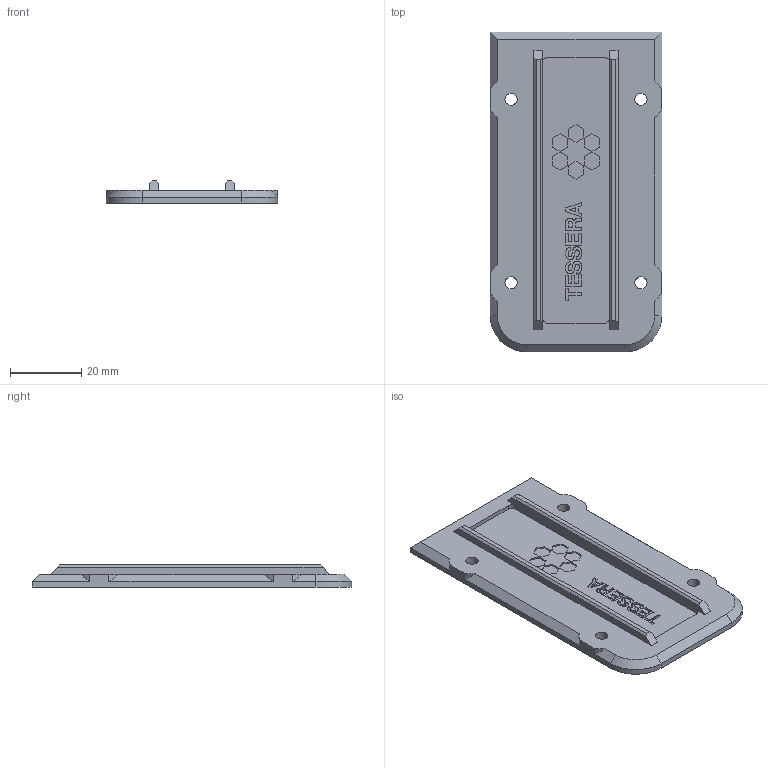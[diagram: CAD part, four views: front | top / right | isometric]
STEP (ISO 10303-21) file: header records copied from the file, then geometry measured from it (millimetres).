
FILE_DESCRIPTION(('Open CASCADE Model'),'2;1');
FILE_NAME('Open CASCADE Shape Model','2026-10-09T15:33:22',('Author'),( 'Open CASCADE'),'Open CASCADE STEP processor 7.9','Open CASCADE 7.9' ,'Unknown');
FILE_SCHEMA(('AUTOMOTIVE_DESIGN { 1 0 10303 214 1 1 1 1 }'));
Length unit declared in the file: millimetre
Products named in the file (1): Open CASCADE STEP translator 7.9 3
Bounding box: 48 x 89.5 x 6.2 mm (x, y, z)
Volume: 13868.4 mm3; surface area: 10286.4 mm2
Topology: 1 solids, 1 shells, 237 faces, 651 edges, 432 vertices
Faces by surface type: plane 143, extrusion 74, cylinder 18, cone 2
Full cylindrical faces by diameter (mm): 3.4 x4
Entity records: 17414 total; most frequent: CARTESIAN_POINT 5443, DIRECTION 1756, VECTOR 1332, ORIENTED_EDGE 1302, PCURVE 1302, DEFINITIONAL_REPRESENTATION 1302, LINE 1258, B_SPLINE_CURVE_WITH_KNOTS 695
